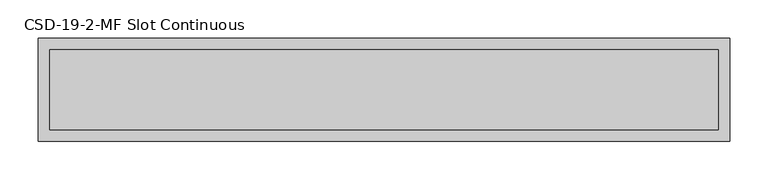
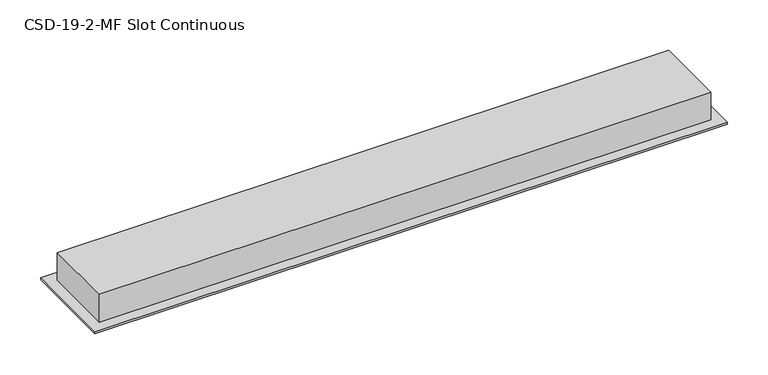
"""IFC4 building model written with IfcOpenShell, lengths in millimetres: air terminal geometry, DC_Holyoake_MEQ_CSD-25-2-MF_Slot_Continuous_14 : CSD-19-2-MF Slot Continuous."""

from ifc_helpers import new_model, si_unit, origin, place, context, project, spatial, faceted_brep, source, transform, mapped, element, save


def csd_19_2_mf_slot_continuous_db82a682(model_context):
    return source(origin(), model_context, "Body", "Brep", [
        faceted_brep([(450.0, 67.0, 3.2), (-450.0, 67.0, 3.2), (-450.0, -67.0, 3.2), (450.0, -67.0, 3.2), (-435.0, 52.0, 3.2), (435.0, 52.0, 3.2), (435.0, -52.0, 3.2), (-435.0, -52.0, 3.2), (450.0, 67.0, 0.0), (450.0, -67.0, 0.0), (-450.0, -67.0, 0.0), (-450.0, 67.0, 0.0), (425.0, 9.5, 0.0), (425.0, 34.5, 0.0), (-425.0, 34.5, 0.0), (-425.0, 9.5, 0.0), (425.0, -9.5, 0.0), (-425.0, -9.5, 0.0), (-425.0, -34.5, 0.0), (425.0, -34.5, 0.0), (435.0, 52.0, 45.0), (-435.0, 52.0, 45.0), (-435.0, -52.0, 45.0), (435.0, -52.0, 45.0), (425.0, 9.5, 30.0), (-425.0, 9.5, 30.0), (-425.0, 34.5, 30.0), (425.0, 34.5, 30.0), (425.0, -9.5, 30.0), (425.0, -34.5, 30.0), (-425.0, -34.5, 30.0), (-425.0, -9.5, 30.0)], [[[0, 1, 2, 3], [4, 5, 6, 7]], [[8, 9, 10, 11], [12, 13, 14, 15], [16, 17, 18, 19]], [[1, 0, 8, 11]], [[2, 1, 11, 10]], [[3, 2, 10, 9]], [[0, 3, 9, 8]], [[20, 21, 22, 23]], [[21, 20, 5, 4]], [[22, 21, 4, 7]], [[23, 22, 7, 6]], [[20, 23, 6, 5]], [[24, 25, 26, 27]], [[28, 29, 30, 31]], [[24, 27, 13, 12]], [[27, 26, 14, 13]], [[26, 25, 15, 14]], [[25, 24, 12, 15]], [[28, 31, 17, 16]], [[31, 30, 18, 17]], [[30, 29, 19, 18]], [[29, 28, 16, 19]]]),
    ])


if __name__ == "__main__":
    model = new_model("IFC4")
    model_context = context("Model", 3, world=origin())
    ifc_project = project(units=[si_unit("LENGTHUNIT", "METRE", prefix="MILLI")], contexts=[model_context])
    site = spatial("IfcSite", under=ifc_project)
    building = spatial("IfcBuilding", under=site)
    placement = place(None, origin())
    csd_19_2_mf_slot_continuous_shape = csd_19_2_mf_slot_continuous_db82a682(model_context)
    element("IfcAirTerminal", 1, ObjectType="DC_Holyoake_MEQ_CSD-25-2-MF_Slot_Continuous_14 : CSD-19-2-MF Slot Continuous", at=placement, inside=building, context=model_context, shape_type="MappedRepresentation", body=[
        mapped(csd_19_2_mf_slot_continuous_shape, transform((0.0, 0.0, 0.0), x_axis=(1.0, 0.0, 0.0), y_axis=(0.0, 1.0, 0.0), z_axis=(0.0, 0.0, 1.0))),
    ])
    save(model, "model.ifc")
